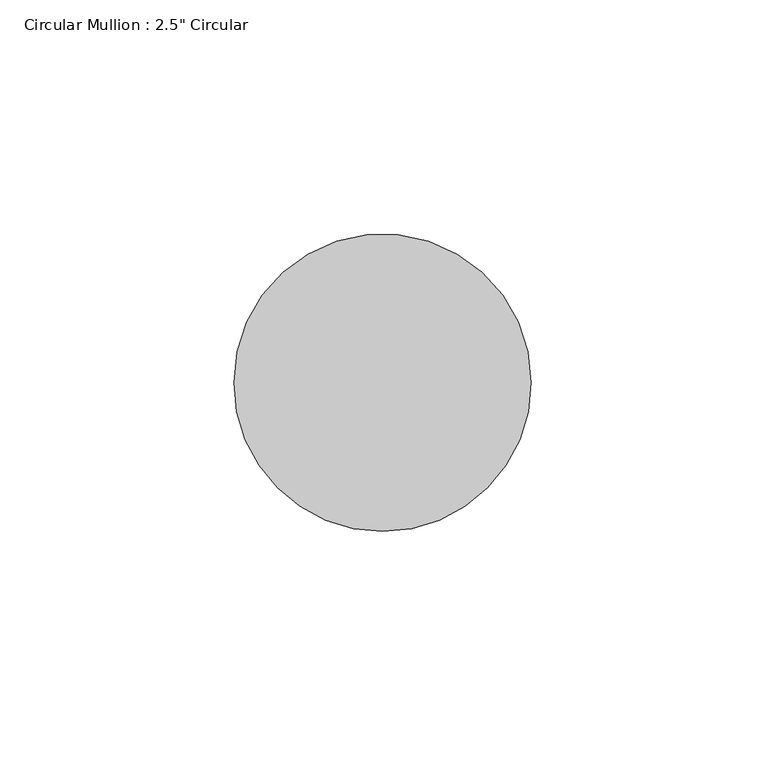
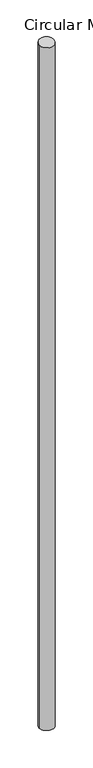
"""IFC4 building model written with IfcOpenShell, lengths in millimetres: member geometry."""

from ifc_helpers import new_model, si_unit, frame, origin, place, context, project, spatial, ellipse_curve, source, transform, mapped, element, save
from ifc_brep_helpers import plane_surface, cylinder_surface, advanced_brep


def member_d718a34b(model_context):
    return source(origin(), model_context, "Body", "AdvancedBrep", [
        advanced_brep(
        [(-63.5, 0.0, -2.2771049), (0.0, 0.0, 0.0), (0.0, 0.0, -3060.1478886), (-63.5, 0.0, -3058.4334492)],
        [
            (0, 1, ellipse_curve(frame((-31.75, 0.0, -1.1385525), z_axis=(0.03573519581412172, 0.07527997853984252, -0.9965219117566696), x_axis=(0.42734210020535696, 0.9002414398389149, 0.08333114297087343)), 31.8608147, 31.75)),
            (1, 2),
            (2, 3, ellipse_curve(frame((-31.75, 0.0, -3059.2906689), z_axis=(0.026945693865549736, 0.056763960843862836, 0.9980239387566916), x_axis=(-0.4279862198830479, -0.9015983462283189, 0.06283484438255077)), 31.8128642, 31.75)),
            (3, 0),
            (1, 0, ellipse_curve(frame((-31.75, 0.0, -1.1385525), z_axis=(0.03573519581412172, 0.07527997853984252, -0.9965219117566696), x_axis=(0.42734210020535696, 0.9002414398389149, 0.08333114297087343)), 31.8608147, 31.75)),
            (3, 2, ellipse_curve(frame((-31.75, 0.0, -3059.2906689), z_axis=(0.026945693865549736, 0.056763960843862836, 0.9980239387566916), x_axis=(-0.4279862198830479, -0.9015983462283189, 0.06283484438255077)), 31.8128642, 31.75)),
        ],
        [
            cylinder_surface(frame((-31.75, 0.0, 0.0), z_axis=(0.0, 0.0, 1.0), x_axis=(1.0, 0.0, 0.0)), 31.75),
            plane_surface(frame((275.3512869, -130.7084878, 0.0), z_axis=(-0.03573519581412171, -0.0752799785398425, 0.9965219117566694), x_axis=(-0.4273421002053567, -0.9002414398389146, -0.08333114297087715))),
            plane_surface(frame((275.3512869, -130.7084878, -3060.1478886), z_axis=(-0.026945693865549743, -0.05676396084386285, -0.9980239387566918), x_axis=(-0.427986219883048, -0.901598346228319, 0.06283484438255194))),
        ],
        [
            (0, [[1, 2, 3, 4]]),
            (0, [[5, -4, 6, -2]]),
            (1, [[-1, -5]]),
            (2, [[-6, -3]]),
        ],
    ),
    ])


if __name__ == "__main__":
    model = new_model("IFC4")
    model_context = context("Model", 3, world=origin())
    ifc_project = project(units=[si_unit("LENGTHUNIT", "METRE", prefix="MILLI")], contexts=[model_context])
    site = spatial("IfcSite", under=ifc_project)
    building = spatial("IfcBuilding", under=site)
    placement = place(None, origin())
    member_shape = member_d718a34b(model_context)
    element("IfcMember", 1, ObjectType="Circular Mullion : 2.5\" Circular", at=placement, inside=building, context=model_context, shape_type="MappedRepresentation", body=[
        mapped(member_shape, transform((0.0, 0.0, 0.0), x_axis=(1.0, 0.0, 0.0), y_axis=(0.0, 1.0, 0.0), z_axis=(0.0, 0.0, 1.0))),
    ])
    save(model, "model.ifc")
